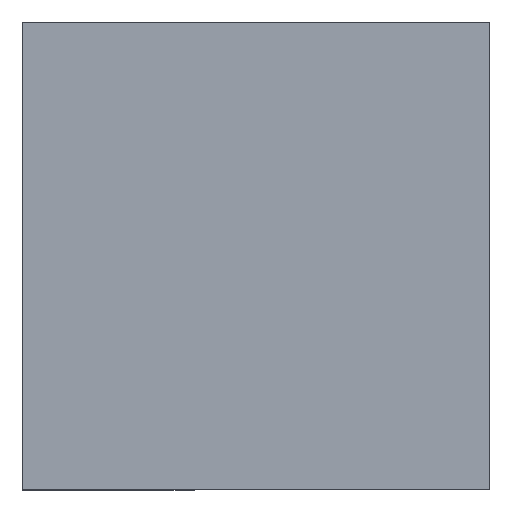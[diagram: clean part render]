
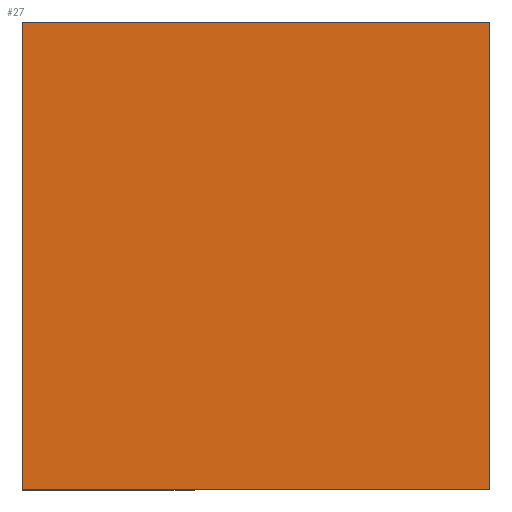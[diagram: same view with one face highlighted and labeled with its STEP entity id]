
A CAD part, top view. The second image highlights one B-rep face of the part: STEP entity #27.
In plain terms, the highlighted planar face has unit normal (0, 0, 1).
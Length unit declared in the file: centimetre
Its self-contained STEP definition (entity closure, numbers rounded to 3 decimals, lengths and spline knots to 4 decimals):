
#18 = CARTESIAN_POINT ( 'NONE',  ( 0., 1000., 1000. ) ) ;
#27 = ADVANCED_FACE ( 'NONE', ( #159 ), #206, .T. ) ;
#54 = VERTEX_POINT ( 'NONE', #501 ) ;
#72 = DIRECTION ( 'NONE',  ( -1., 0., 0. ) ) ;
#106 = DIRECTION ( 'NONE',  ( 0., 0., 1. ) ) ;
#115 = CARTESIAN_POINT ( 'NONE',  ( 1000., 0., 1000. ) ) ;
#149 = EDGE_CURVE ( 'NONE', #54, #345, #284, .T. ) ;
#159 = FACE_OUTER_BOUND ( 'NONE', #603, .T. ) ;
#162 = DIRECTION ( 'NONE',  ( 1., 0., 0. ) ) ;
#170 = DIRECTION ( 'NONE',  ( 0., 1., 0. ) ) ;
#183 = AXIS2_PLACEMENT_3D ( 'NONE', #550, #106, #162 ) ;
#189 = EDGE_CURVE ( 'NONE', #254, #54, #234, .T. ) ;
#206 = PLANE ( 'NONE',  #183 ) ;
#210 = ORIENTED_EDGE ( 'NONE', *, *, #149, .T. ) ;
#222 = DIRECTION ( 'NONE',  ( 1., 0., 0. ) ) ;
#234 = LINE ( 'NONE', #434, #449 ) ;
#242 = CARTESIAN_POINT ( 'NONE',  ( 0., 1000., 1000. ) ) ;
#251 = DIRECTION ( 'NONE',  ( 0., -1., 0. ) ) ;
#254 = VERTEX_POINT ( 'NONE', #115 ) ;
#259 = CARTESIAN_POINT ( 'NONE',  ( 0., 0., 1000. ) ) ;
#284 = LINE ( 'NONE', #18, #409 ) ;
#332 = EDGE_CURVE ( 'NONE', #345, #522, #452, .T. ) ;
#343 = CARTESIAN_POINT ( 'NONE',  ( 0., 0., 1000. ) ) ;
#345 = VERTEX_POINT ( 'NONE', #242 ) ;
#409 = VECTOR ( 'NONE', #72, 100. ) ;
#434 = CARTESIAN_POINT ( 'NONE',  ( 1000., 1000., 1000. ) ) ;
#449 = VECTOR ( 'NONE', #170, 100. ) ;
#452 = LINE ( 'NONE', #541, #539 ) ;
#499 = EDGE_CURVE ( 'NONE', #522, #254, #543, .T. ) ;
#501 = CARTESIAN_POINT ( 'NONE',  ( 1000., 1000., 1000. ) ) ;
#522 = VERTEX_POINT ( 'NONE', #343 ) ;
#524 = ORIENTED_EDGE ( 'NONE', *, *, #189, .T. ) ;
#539 = VECTOR ( 'NONE', #251, 100. ) ;
#541 = CARTESIAN_POINT ( 'NONE',  ( 0., 1000., 1000. ) ) ;
#543 = LINE ( 'NONE', #259, #607 ) ;
#550 = CARTESIAN_POINT ( 'NONE',  ( 0., 0., 1000. ) ) ;
#575 = ORIENTED_EDGE ( 'NONE', *, *, #332, .T. ) ;
#603 = EDGE_LOOP ( 'NONE', ( #575, #630, #524, #210 ) ) ;
#607 = VECTOR ( 'NONE', #222, 100. ) ;
#630 = ORIENTED_EDGE ( 'NONE', *, *, #499, .T. ) ;
